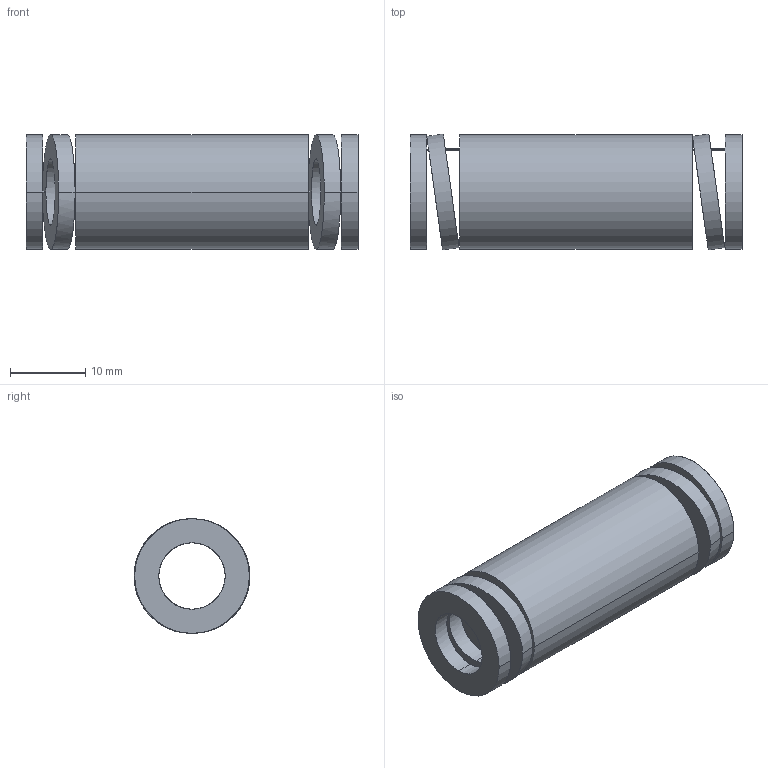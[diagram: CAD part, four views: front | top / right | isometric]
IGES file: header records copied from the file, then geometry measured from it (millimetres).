
Start section: START RECORD GO HERE.
Global section: file name: 392-B16-044.igs; native system: DASSAULT SYSTEMES CATIA V5 R20 - www.3ds.com; preprocessor: CATIA Version 5 Release 20 ; author: Utente; organization: NB04-ASUS; date: 20210812.160655; units: millimetre
Bounding box: 44 x 15.36 x 15.2 mm (x, y, z)
Surface area: 4193.5 mm2 (no closed solid volume)
Topology: 0 solids, 0 shells, 38 faces, 184 edges, 184 vertices
Faces by surface type: revolution 28, plane 10
